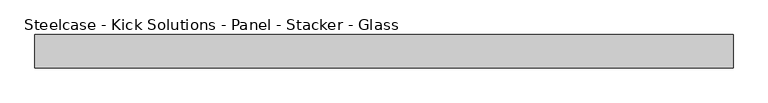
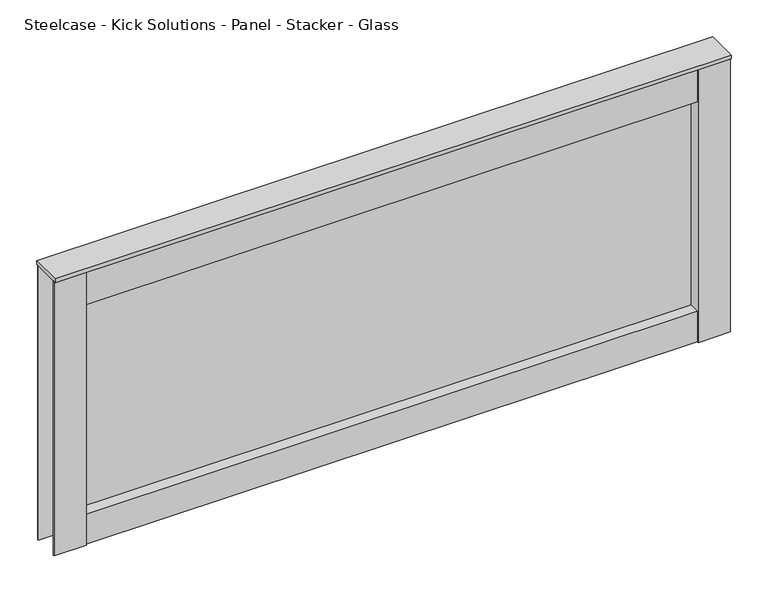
"""IFC4 building model written with IfcOpenShell, lengths in millimetres: furniture geometry, Steelcase - Kick Solutions - Panel - Stacker - Glass : 18H x 42W."""

from ifc_helpers import new_model, si_unit, frame, origin, place, context, project, spatial, polyline, outline, extrude, source, transform, mapped, element, save


def steelcase_kick_solutions_panel_stacker_glass_2776b375(model_context):
    return source(origin(), model_context, "Body", "SweptSolid", [
        extrude(outline(polyline([(1016.0006661, -5.08), (1016.0006661, -45.7200015), (50.8006646, -45.7200015), (50.8006646, -5.08), (1016.0006661, -5.08)])), frame((0.0, 0.0, 1066.8), z_axis=(0.0, 0.0, 1.0), x_axis=(1.0, 0.0, 0.0)), (0.0, 0.0, 1.0), 50.6830951),
        extrude(outline(polyline([(1016.0006661, -5.08), (1016.0006661, -45.7200015), (50.8006646, -45.7200015), (50.8006646, -5.08), (1016.0006661, -5.08)])), frame((0.0, 0.0, 1466.85), z_axis=(0.0, 0.0, 1.0), x_axis=(1.0, 0.0, 0.0)), (0.0, 0.0, 1.0), 57.15),
        extrude(outline(polyline([(50.8006646, -3.1743148), (50.8006646, -47.6243142), (0.0, -47.6243142), (0.0, -45.7200015), (47.7526646, -45.7200015), (47.7526646, -5.08), (0.0, -5.08), (0.0, -3.1743148), (50.8006646, -3.1743148)])), frame((0.0, 0.0, 1066.8), z_axis=(0.0, 0.0, 1.0), x_axis=(1.0, 0.0, 0.0)), (0.0, 0.0, 1.0), 457.2),
        extrude(outline(polyline([(1016.0006661, -3.1743148), (1066.8, -3.1743148), (1066.8, -5.08), (1019.0486661, -5.08), (1019.0486661, -45.7200015), (1066.8, -45.7200015), (1066.8, -47.6243142), (1016.0006661, -47.6243142), (1016.0006661, -3.1743148)])), frame((0.0, 0.0, 1066.8), z_axis=(0.0, 0.0, 1.0), x_axis=(1.0, 0.0, 0.0)), (0.0, 0.0, 1.0), 457.2),
        extrude(outline(polyline([(1016.0006661, -28.422537), (50.8006646, -28.422537), (50.8006646, -25.4), (1016.0006661, -25.4), (1016.0006661, -28.422537)])), frame((0.0, 0.0, 1117.4830951), z_axis=(0.0, 0.0, 1.0), x_axis=(1.0, 0.0, 0.0)), (0.0, 0.0, 1.0), 349.3669049),
        extrude(outline(polyline([(1066.8, 0.0), (1066.8, -50.8000015), (0.0, -50.8000015), (0.0, 0.0), (1066.8, 0.0)])), frame((0.0, 0.0, 1524.0), z_axis=(0.0, 0.0, 1.0), x_axis=(1.0, 0.0, 0.0)), (0.0, 0.0, 1.0), 6.35),
    ])


if __name__ == "__main__":
    model = new_model("IFC4")
    model_context = context("Model", 3, world=origin())
    ifc_project = project(units=[si_unit("LENGTHUNIT", "METRE", prefix="MILLI")], contexts=[model_context])
    site = spatial("IfcSite", under=ifc_project)
    building = spatial("IfcBuilding", under=site)
    placement = place(None, origin())
    steelcase_kick_solutions_panel_stacker_glass_shape = steelcase_kick_solutions_panel_stacker_glass_2776b375(model_context)
    element("IfcFurniture", 1, ObjectType="Steelcase - Kick Solutions - Panel - Stacker - Glass : 18H x 42W", at=placement, inside=building, context=model_context, shape_type="MappedRepresentation", body=[
        mapped(steelcase_kick_solutions_panel_stacker_glass_shape, transform((0.0, 0.0, 0.0), x_axis=(1.0, 0.0, 0.0), y_axis=(0.0, 1.0, 0.0), z_axis=(0.0, 0.0, 1.0))),
    ])
    save(model, "model.ifc")
